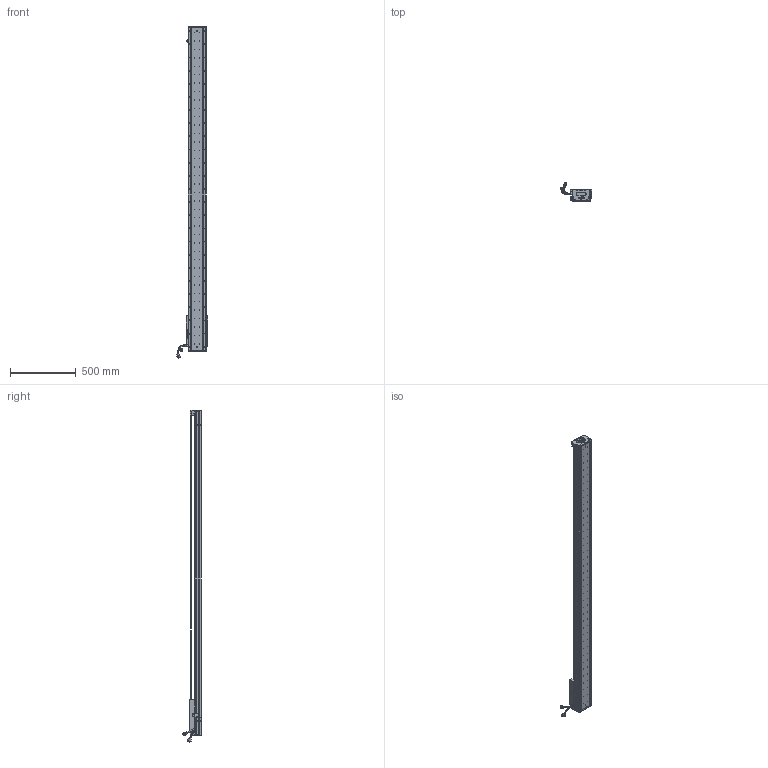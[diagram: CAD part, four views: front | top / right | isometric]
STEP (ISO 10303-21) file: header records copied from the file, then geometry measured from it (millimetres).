
FILE_DESCRIPTION (( 'STEP AP203' ), '1' );
FILE_NAME ('Z3-RY140D-1-L500-B-K.SLDASM_2150.step', '2021-05-17T08:04:05', ( '盈信电脑' ), ( '东莞市道滘镇水果街19号' ), 'SwSTEP 2.0', 'SolidWorks 2016', '' );
FILE_SCHEMA (( 'CONFIG_CONTROL_DESIGN' ));
Length unit declared in the file: millimetre
Products named in the file (36): HARNESS-Part-2; HOLDER0; Z3-RY140圉猾敕臏賑輸(21遴); SCREW-M1.6-1; COVER-Part-1; 080黍杅芛假蚾釱21遴; 覜茼ん672; HARNESS; COVER; Z-RY140詩湍狟揤裔; SEAL; Z3-RY140-L500直线电机模组底座_2150; SCREW-M1.6-2; 榋妏寠巭燃_暯_M2_2; Z-140詩湍傷裔啣; 140-Z-臏賑輸盄裔(21遴); LABEL; 140蚥薯蝶輸; HARNESS-Part-1; SCREW-M1.7-1; SHIELDPLATE; SCALE-Part-2; Z3-RY140-L500詩湍100mm遵_2150; SCREW-M1.7; SCALE-Part-1; PSLH080_PSLF2; SCREW-M1.6-3; SEAL-Part-1; SCALE; SCREW-M1.6; LABEL-Part-1; Z3-RY140D-1-L500-B-K.SLDASM_2150; Z-RY140詩湍奻揤裔; 140雄赽晤鎢ん堤盄; Z-RY140感应器672光电感应片; PBU_SHEET
Assembly tree (41 placements, depth 4):
  Z3-RY140D-1-L500-B-K.SLDASM_2150
    Z3-RY140-L500直线电机模组底座_2150
    Z-RY140感应器672光电感应片
    Z3-RY140圉猾敕臏賑輸(21遴)
    覜茼ん672  x3
    Z3-RY140-L500詩湍100mm遵_2150
    PSLH080_PSLF2
      SCALE
        SCALE-Part-1
        SCALE-Part-2
      HARNESS
        HARNESS-Part-1
        HARNESS-Part-2
      LABEL
        LABEL-Part-1
      COVER
        COVER-Part-1
      SEAL
        SEAL-Part-1
      榋妏寠巭燃_暯_M2_2
      SHIELDPLATE
      SCREW-M1.7
      SCREW-M1.7-1
      PBU_SHEET
      SCREW-M1.6
      SCREW-M1.6-1
      SCREW-M1.6-2
      SCREW-M1.6-3
      HOLDER0
    080黍杅芛假蚾釱21遴
    140-Z-臏賑輸盄裔(21遴)
    Z-140詩湍傷裔啣  x2
    Z-RY140詩湍狟揤裔  x2
    Z-RY140詩湍奻揤裔  x2
    140蚥薯蝶輸  x2
    140雄赽晤鎢ん堤盄
Bounding box: 239.84 x 143.88 x 2525.87 mm (x, y, z)
Volume: 8149437.4 mm3; surface area: 2123244.1 mm2
Topology: 36 solids, 36 shells, 4044 faces, 10988 edges, 6961 vertices
Faces by surface type: cylinder 2174, plane 1354, cone 394, torus 69, bspline 53
Entity records: 127924 total; most frequent: CARTESIAN_POINT 36033, ORIENTED_EDGE 18912, DIRECTION 17544, EDGE_CURVE 9456, AXIS2_PLACEMENT_3D 6520, VERTEX_POINT 6129, LINE 4504, VECTOR 4504
